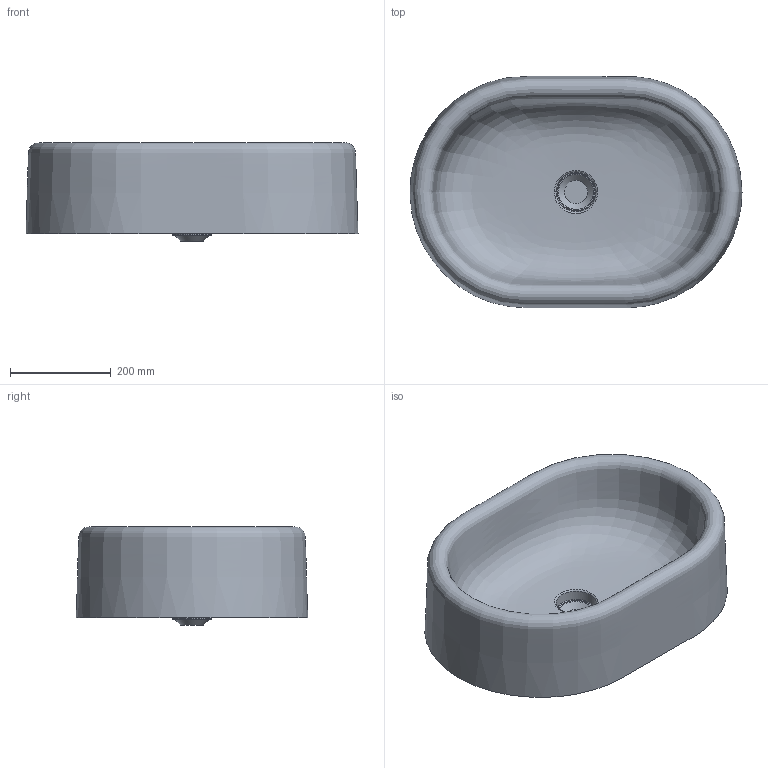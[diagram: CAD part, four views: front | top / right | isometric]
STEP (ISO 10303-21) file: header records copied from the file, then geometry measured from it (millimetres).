
FILE_DESCRIPTION(/* description */ (''),/* implementation_level */ '2;1');
FILE_NAME(/* name */ 'ITLAO',/* time_stamp */ '2024-12-13T17:53:33+01:00',/* author */ (''),/* organization */ (''),/* preprocessor_version */ 'ST-DEVELOPER v16.5',/* originating_system */ 'Rhino 7.27',/* authorisation */ '');
FILE_SCHEMA (('CONFIG_CONTROL_DESIGN'));
Length unit declared in the file: millimetre
Products named in the file (1): Document
Bounding box: 659.9 x 460.13 x 195.16 mm (x, y, z)
Surface area: 727899.3 mm2 (no closed solid volume)
Topology: 0 solids, 1 shells, 9 faces, 19 edges, 11 vertices
Faces by surface type: bspline 7, plane 2
Entity records: 7045 total; most frequent: CARTESIAN_POINT 6846, ORIENTED_EDGE 34, EDGE_CURVE 19, VERTEX_POINT 11, EDGE_LOOP 10, ADVANCED_FACE 9, FACE_OUTER_BOUND 9, ORGANIZATION 7
